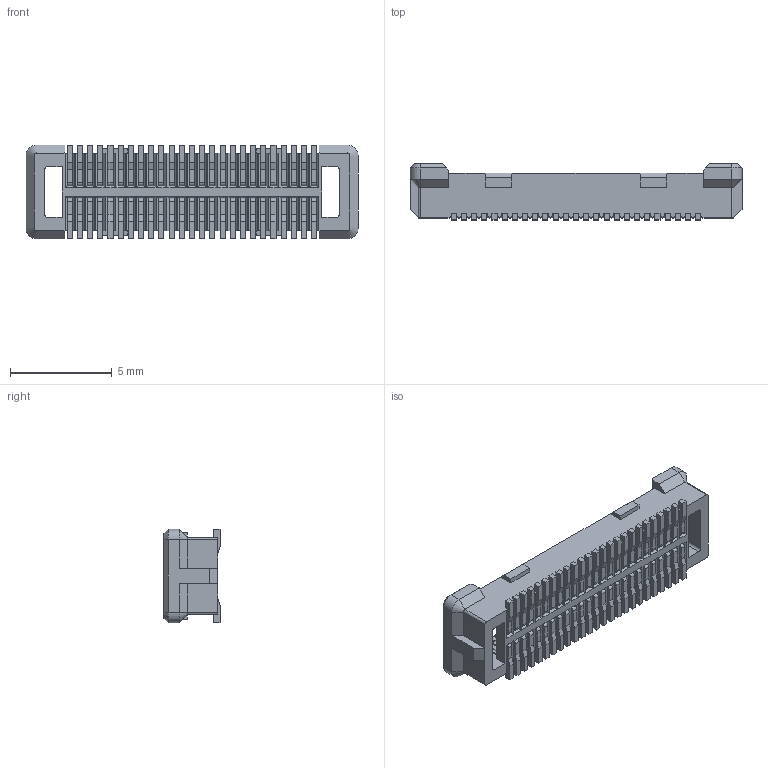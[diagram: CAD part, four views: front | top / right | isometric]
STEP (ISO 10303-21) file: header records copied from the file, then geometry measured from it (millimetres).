
FILE_DESCRIPTION((''),'2;1');
FILE_NAME('10144852','2019-12-02T',('baoyy'),('AFCI'),'CREO PARAMETRIC BY PTC INC, 2016130','CREO PARAMETRIC BY PTC INC, 2016130','');
FILE_SCHEMA(('AUTOMOTIVE_DESIGN { 1 0 10303 214 1 1 1 1 }'));
Products named in the file (1): 10144852
Bounding box: 16.3 x 2.75 x 4.6 mm (x, y, z)
Volume: 80.3 mm3; surface area: 499.6 mm2
Topology: 1 solids, 1 shells, 3002 faces, 9870 edges, 6268 vertices
Faces by surface type: plane 2428, cylinder 566, cone 8
Entity records: 108003 total; most frequent: CARTESIAN_POINT 20359, ORIENTED_EDGE 19740, DIRECTION 16790, EDGE_CURVE 9870, VECTOR 8338, LINE 8338, VERTEX_POINT 6268, AXIS2_PLACEMENT_3D 4226
